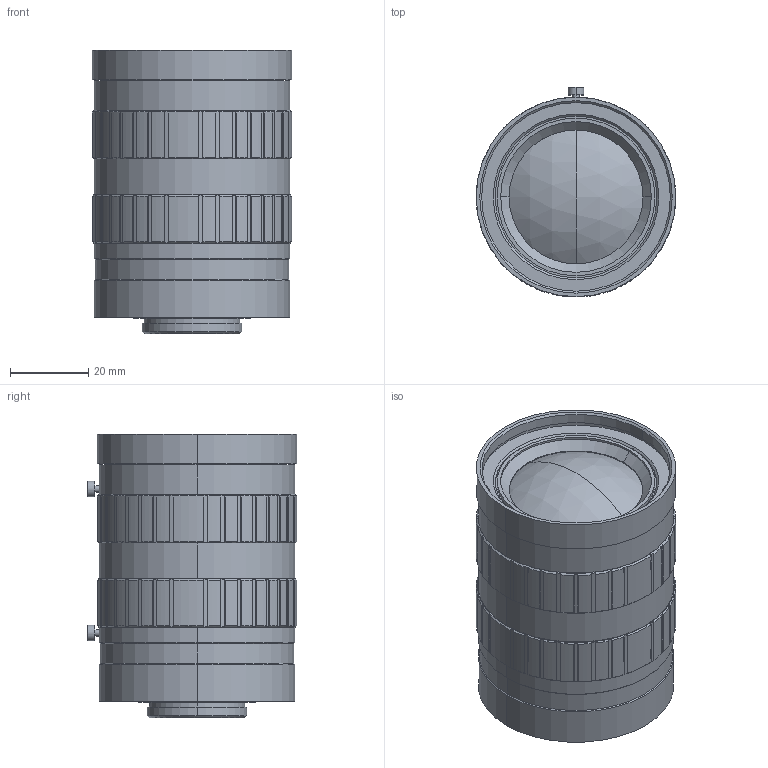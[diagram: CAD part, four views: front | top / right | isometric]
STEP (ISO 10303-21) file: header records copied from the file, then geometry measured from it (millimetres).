
FILE_DESCRIPTION (( 'STEP AP214' ), '1' );
FILE_NAME ('CF12.5HA-1_3D_Modeling.STEP', '2016-06-15T07:15:13', ( '富士フイルム株式会社' ), ( '富士フイルム株式会社' ), 'SwSTEP 2.0', 'SolidWorks 2014', '' );
FILE_SCHEMA (( 'AUTOMOTIVE_DESIGN' ));
Length unit declared in the file: millimetre
Products named in the file (1): CF12.5HA-1_3D_Modeling
Bounding box: 51 x 53.6 x 72.52 mm (x, y, z)
Volume: 128943.9 mm3; surface area: 18296.7 mm2
Topology: 1 solids, 1 shells, 361 faces, 982 edges, 644 vertices
Faces by surface type: cylinder 176, plane 149, cone 32, sphere 4
Entity records: 11920 total; most frequent: CARTESIAN_POINT 2908, ORIENTED_EDGE 1964, DIRECTION 1832, EDGE_CURVE 982, AXIS2_PLACEMENT_3D 748, VERTEX_POINT 644, CIRCLE 386, EDGE_LOOP 382
